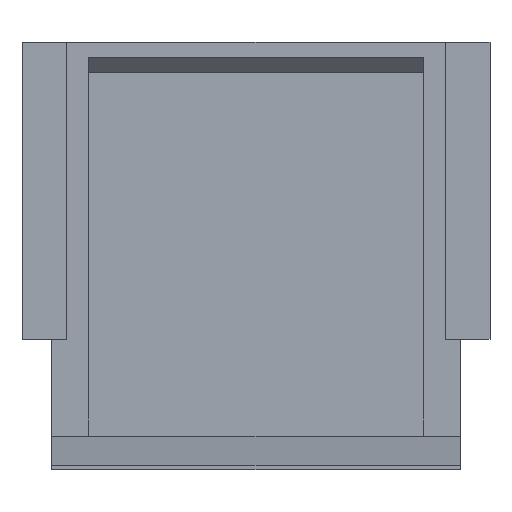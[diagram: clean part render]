
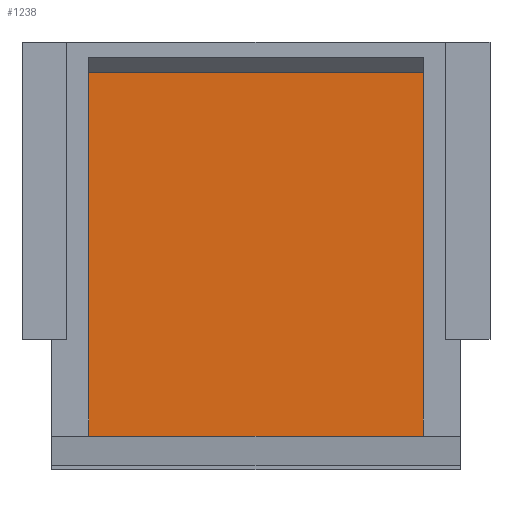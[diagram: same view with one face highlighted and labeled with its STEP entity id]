
A CAD part, top view. The second image highlights one B-rep face of the part: STEP entity #1238.
In plain terms, the highlighted planar face has unit normal (0, 0, 1).
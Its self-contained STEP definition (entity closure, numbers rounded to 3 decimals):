
#70=FACE_OUTER_BOUND('',#134,.T.);
#134=EDGE_LOOP('',(#1048,#1049,#1050,#1051));
#299=LINE('',#1935,#472);
#304=LINE('',#1945,#477);
#305=LINE('',#1947,#478);
#306=LINE('',#1948,#479);
#472=VECTOR('',#1582,10.);
#477=VECTOR('',#1591,10.);
#478=VECTOR('',#1592,10.);
#479=VECTOR('',#1593,10.);
#595=VERTEX_POINT('',#1931);
#596=VERTEX_POINT('',#1933);
#599=VERTEX_POINT('',#1944);
#600=VERTEX_POINT('',#1946);
#759=EDGE_CURVE('',#595,#596,#299,.T.);
#764=EDGE_CURVE('',#596,#599,#304,.T.);
#765=EDGE_CURVE('',#600,#599,#305,.T.);
#766=EDGE_CURVE('',#595,#600,#306,.T.);
#1048=ORIENTED_EDGE('',*,*,#759,.T.);
#1049=ORIENTED_EDGE('',*,*,#764,.T.);
#1050=ORIENTED_EDGE('',*,*,#765,.F.);
#1051=ORIENTED_EDGE('',*,*,#766,.F.);
#1176=PLANE('',#1314);
#1238=ADVANCED_FACE('',(#70),#1176,.T.);
#1314=AXIS2_PLACEMENT_3D('',#1943,#1589,#1590);
#1582=DIRECTION('',(1.,0.,0.));
#1589=DIRECTION('center_axis',(0.,0.,1.));
#1590=DIRECTION('ref_axis',(1.,0.,0.));
#1591=DIRECTION('',(0.,1.,0.));
#1592=DIRECTION('',(1.,0.,0.));
#1593=DIRECTION('',(0.,1.,0.));
#1931=CARTESIAN_POINT('',(0.,0.,4.));
#1933=CARTESIAN_POINT('',(51.,0.,4.));
#1935=CARTESIAN_POINT('',(27.5,0.,4.));
#1943=CARTESIAN_POINT('Origin',(0.,0.,4.));
#1944=CARTESIAN_POINT('',(51.,51.,4.));
#1945=CARTESIAN_POINT('',(51.,0.,4.));
#1946=CARTESIAN_POINT('',(0.,51.,4.));
#1947=CARTESIAN_POINT('',(51.,51.,4.));
#1948=CARTESIAN_POINT('',(0.,0.,4.));
